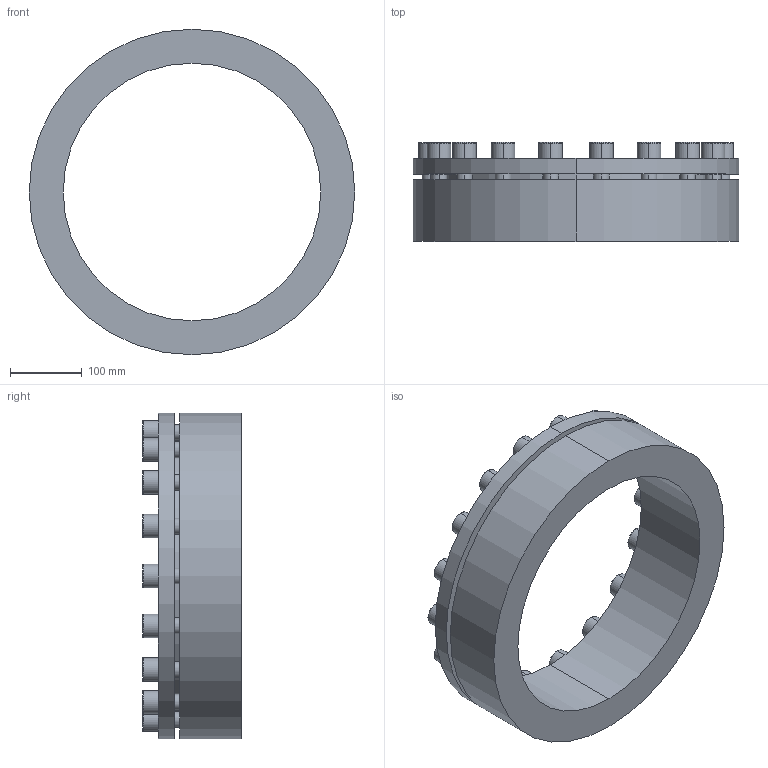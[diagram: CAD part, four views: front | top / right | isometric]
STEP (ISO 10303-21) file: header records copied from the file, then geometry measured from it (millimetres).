
FILE_DESCRIPTION (( 'STEP AP203' ), '1' );
FILE_NAME ('PL-H3 360-455.STEP', '2021-10-23T01:12:56', ( '' ), ( '' ), 'SwSTEP 2.0', 'SolidWorks 2018', '' );
FILE_SCHEMA (( 'CONFIG_CONTROL_DESIGN' ));
Length unit declared in the file: millimetre
Products named in the file (1): PL-H3 360-455
Bounding box: 455 x 138 x 455 mm (x, y, z)
Volume: 6999129.7 mm3; surface area: 564451.7 mm2
Topology: 1 solids, 1 shells, 264 faces, 636 edges, 412 vertices
Faces by surface type: plane 148, cylinder 80, torus 36
Entity records: 7857 total; most frequent: DIRECTION 1398, CARTESIAN_POINT 1313, ORIENTED_EDGE 1272, EDGE_CURVE 636, AXIS2_PLACEMENT_3D 497, VERTEX_POINT 412, VECTOR 404, LINE 404
